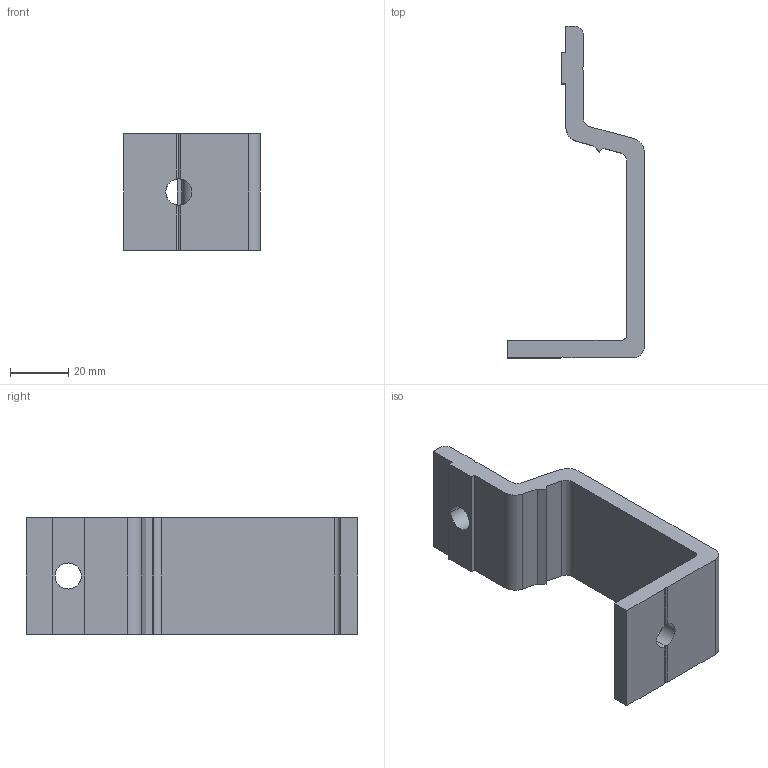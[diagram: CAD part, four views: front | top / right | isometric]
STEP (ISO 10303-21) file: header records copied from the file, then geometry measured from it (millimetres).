
FILE_DESCRIPTION (( 'STEP AP214' ), '1' );
FILE_NAME ('FAHBS 40.step', '2017-04-05T07:55:13', ( '' ), ( '' ), 'SwSTEP 2.0', 'SolidWorks 2015', '' );
FILE_SCHEMA (( 'AUTOMOTIVE_DESIGN' ));
Length unit declared in the file: millimetre
Products named in the file (1): FAHBS 40
Bounding box: 47 x 114 x 40 mm (x, y, z)
Volume: 40624.9 mm3; surface area: 16255.8 mm2
Topology: 1 solids, 1 shells, 40 faces, 118 edges, 78 vertices
Faces by surface type: plane 29, cylinder 11
Entity records: 1372 total; most frequent: CARTESIAN_POINT 261, ORIENTED_EDGE 236, DIRECTION 216, EDGE_CURVE 118, LINE 86, VECTOR 86, VERTEX_POINT 78, AXIS2_PLACEMENT_3D 65
